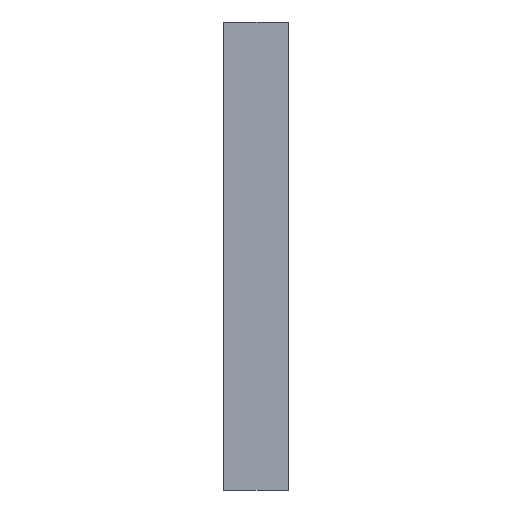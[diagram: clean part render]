
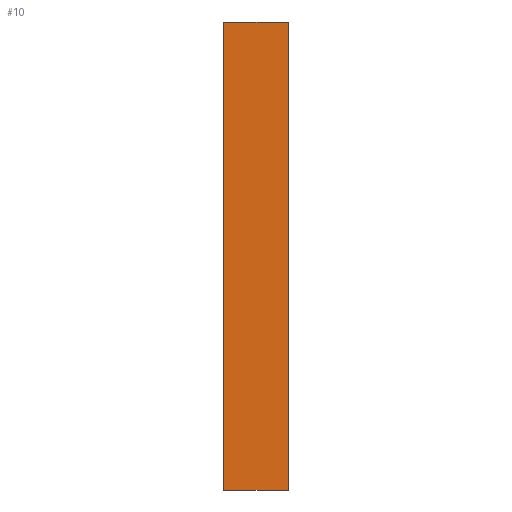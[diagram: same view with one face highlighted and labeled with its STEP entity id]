
A CAD part, left-side view. The second image highlights one B-rep face of the part: STEP entity #10.
In plain terms, the highlighted planar face has unit normal (-1, 0, 0).
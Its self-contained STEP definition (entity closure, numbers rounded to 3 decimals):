
#10 = ADVANCED_FACE ( 'NONE', ( #395 ), #385, .F. ) ;
#32 = VERTEX_POINT ( 'NONE', #749 ) ;
#105 = CARTESIAN_POINT ( 'NONE',  ( -298., 96., 348. ) ) ;
#109 = VECTOR ( 'NONE', #169, 1000. ) ;
#138 = VECTOR ( 'NONE', #958, 1000. ) ;
#157 = LINE ( 'NONE', #449, #138 ) ;
#169 = DIRECTION ( 'NONE',  ( 0., 0., 1. ) ) ;
#206 = LINE ( 'NONE', #105, #277 ) ;
#261 = CARTESIAN_POINT ( 'NONE',  ( -298., 0., 348. ) ) ;
#277 = VECTOR ( 'NONE', #357, 1000. ) ;
#331 = LINE ( 'NONE', #901, #109 ) ;
#357 = DIRECTION ( 'NONE',  ( 0., -1., 0. ) ) ;
#385 = PLANE ( 'NONE',  #678 ) ;
#395 = FACE_OUTER_BOUND ( 'NONE', #947, .T. ) ;
#438 = LINE ( 'NONE', #907, #447 ) ;
#447 = VECTOR ( 'NONE', #691, 1000. ) ;
#449 = CARTESIAN_POINT ( 'NONE',  ( -298., 96., -348. ) ) ;
#453 = VERTEX_POINT ( 'NONE', #638 ) ;
#455 = VERTEX_POINT ( 'NONE', #261 ) ;
#459 = DIRECTION ( 'NONE',  ( 0., 0., -1. ) ) ;
#631 = ORIENTED_EDGE ( 'NONE', *, *, #686, .T. ) ;
#638 = CARTESIAN_POINT ( 'NONE',  ( -298., 96., -348. ) ) ;
#678 = AXIS2_PLACEMENT_3D ( 'NONE', #832, #893, #459 ) ;
#682 = CARTESIAN_POINT ( 'NONE',  ( -298., 0., -348. ) ) ;
#686 = EDGE_CURVE ( 'NONE', #453, #794, #157, .T. ) ;
#691 = DIRECTION ( 'NONE',  ( 0., 0., 1. ) ) ;
#749 = CARTESIAN_POINT ( 'NONE',  ( -298., 96., 348. ) ) ;
#773 = EDGE_CURVE ( 'NONE', #453, #32, #438, .T. ) ;
#794 = VERTEX_POINT ( 'NONE', #682 ) ;
#808 = EDGE_CURVE ( 'NONE', #794, #455, #331, .T. ) ;
#832 = CARTESIAN_POINT ( 'NONE',  ( -298., 96., 348. ) ) ;
#862 = ORIENTED_EDGE ( 'NONE', *, *, #773, .F. ) ;
#893 = DIRECTION ( 'NONE',  ( 1., 0., 0. ) ) ;
#899 = ORIENTED_EDGE ( 'NONE', *, *, #808, .T. ) ;
#901 = CARTESIAN_POINT ( 'NONE',  ( -298., 0., 348. ) ) ;
#907 = CARTESIAN_POINT ( 'NONE',  ( -298., 96., 348. ) ) ;
#926 = ORIENTED_EDGE ( 'NONE', *, *, #929, .F. ) ;
#929 = EDGE_CURVE ( 'NONE', #32, #455, #206, .T. ) ;
#947 = EDGE_LOOP ( 'NONE', ( #899, #926, #862, #631 ) ) ;
#958 = DIRECTION ( 'NONE',  ( 0., -1., 0. ) ) ;
